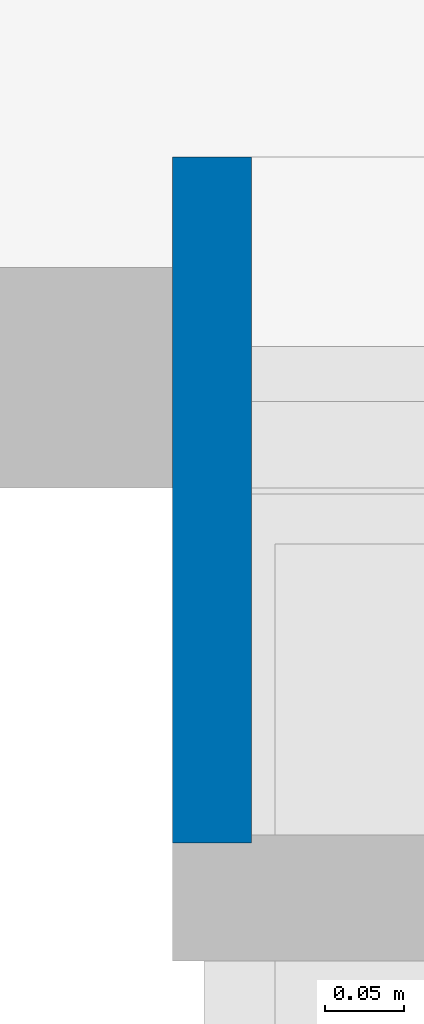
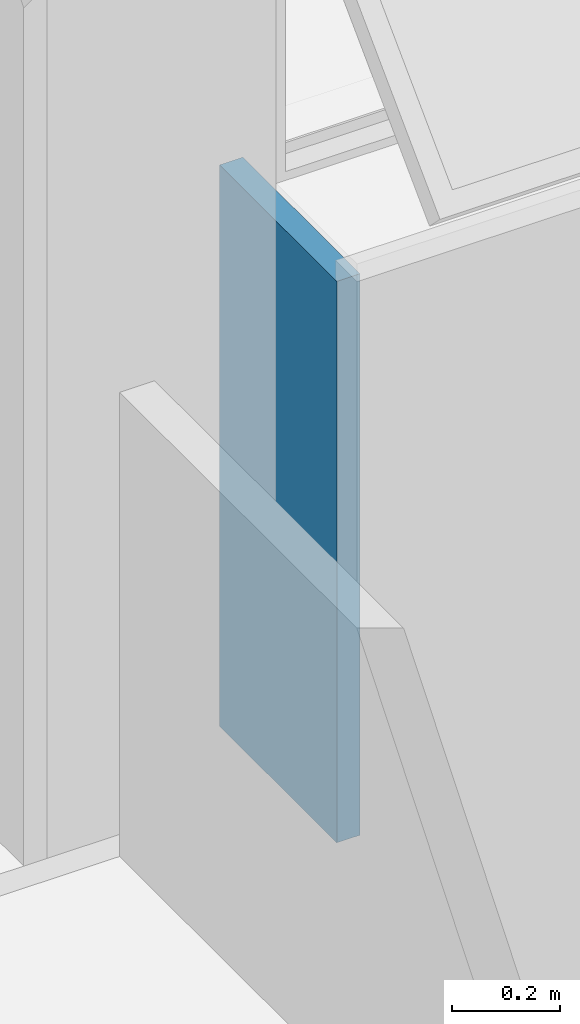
# One storey, part 35 of 40: 1 wall.
"""IFC4 building model written with IfcOpenShell, lengths in millimetres."""

from ifc_helpers import new_model, entity, si_unit, converted_unit, derived_unit, direction, frame, origin_with_axes, place, context, subcontext, project, spatial, line, indexed_curve, outline, extrude, material, layer, layer_set, layer_usage, type_object, element, save


model = new_model("IFC4")

# Units and contexts
model_context = context("Model", 3, precision=0.01, world=origin_with_axes(), true_north=direction((0.0, 1.0)))
body_context = subcontext(model_context, "Body", "Model", "MODEL_VIEW")
ifc_project = project(units=[si_unit("LENGTHUNIT", "METRE", prefix="MILLI"), si_unit("AREAUNIT", "SQUARE_METRE"), si_unit("VOLUMEUNIT", "CUBIC_METRE"), converted_unit("PLANEANGLEUNIT", "DEGREE", entity("IfcPlaneAngleMeasure", 0.0174532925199), si_unit("PLANEANGLEUNIT", "RADIAN"), dimensions=[0, 0, 0, 0, 0, 0, 0]), converted_unit("TIMEUNIT", "Year", entity("IfcTimeMeasure", 31556926.0), si_unit("TIMEUNIT", "SECOND"), dimensions=[0, 0, 1, 0, 0, 0, 0]), si_unit("MASSUNIT", "GRAM", prefix="KILO"), si_unit("THERMODYNAMICTEMPERATUREUNIT", "DEGREE_CELSIUS"), si_unit("LUMINOUSINTENSITYUNIT", "LUMEN"), si_unit("ENERGYUNIT", "JOULE", prefix="MEGA"), derived_unit("THERMALCONDUCTANCEUNIT", [(si_unit("POWERUNIT", "WATT"), 1), (si_unit("LENGTHUNIT", "METRE"), -1), (si_unit("THERMODYNAMICTEMPERATUREUNIT", "KELVIN"), -1)]), derived_unit("SPECIFICHEATCAPACITYUNIT", [(si_unit("ENERGYUNIT", "JOULE"), 1), (si_unit("MASSUNIT", "GRAM", prefix="KILO"), -1), (si_unit("THERMODYNAMICTEMPERATUREUNIT", "KELVIN"), -1)]), derived_unit("MASSDENSITYUNIT", [(si_unit("MASSUNIT", "GRAM", prefix="KILO"), 1), (si_unit("VOLUMEUNIT", "CUBIC_METRE"), -1)])], contexts=[model_context])

# Site, building, storey
site_placement = place(None, origin_with_axes())
site = spatial("IfcSite", under=ifc_project, at=site_placement, Name="Local", CompositionType="ELEMENT")
building_placement = place(site_placement, origin_with_axes())
building = spatial("IfcBuilding", under=site, at=building_placement, Name="Construção", CompositionType="ELEMENT")
storey_placement = place(building_placement, frame((0.0, 0.0, 5300.0), z_axis=(0.0, 0.0, 1.0), x_axis=(1.0, 0.0, 0.0)))
storey = spatial("IfcBuildingStorey", under=building, at=storey_placement, Name="Terceiro Pavimento", CompositionType="ELEMENT", Elevation=5300.0)

# Wall
ifc_material = material(Name="Concreto Armado Moldado in Loco - Estrutural")
ifc_layer = layer(ifc_material, 50.0, ventilated="UNKNOWN", Name="Concreto Armado Moldado in Loco - Estrutural")
ifc_layer_set = layer_set([ifc_layer], Name="Concreto Armado Moldado in Loco - Estrutural 50")
ifc_layer_usage = layer_usage(ifc_layer_set, "AXIS2", "POSITIVE", -50.0)
wall_type = type_object("IfcWallType", Name="Concreto Armado Moldado in Loco - Estrutural 50", PredefinedType="NOTDEFINED")
wall_placement = place(storey_placement, frame((8920.0, 18105.0000013, 0.0), z_axis=(0.0, 0.0, 1.0), x_axis=(0.0, -1.0, 0.0)))
element("IfcWall", 1, at=wall_placement, inside=storey, type_object=wall_type, material=ifc_layer_usage, Name="APTO12-PAREDE-016", PredefinedType="NOTDEFINED", context=body_context, shape_type="SweptSolid", body=[
    extrude(outline(indexed_curve([(0.0, -50.0), (435.0, -50.0), (435.0, 0.0), (0.0, 0.0)], segments=[line(1, 2, 3, 4, 1)])), origin_with_axes(), (0.0, 0.0, 1.0), 1270.0),
])

save(model, "model.ifc")
